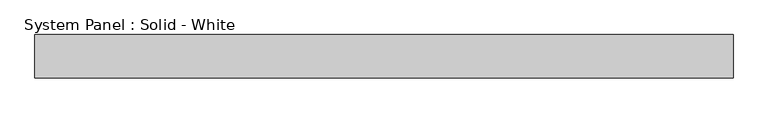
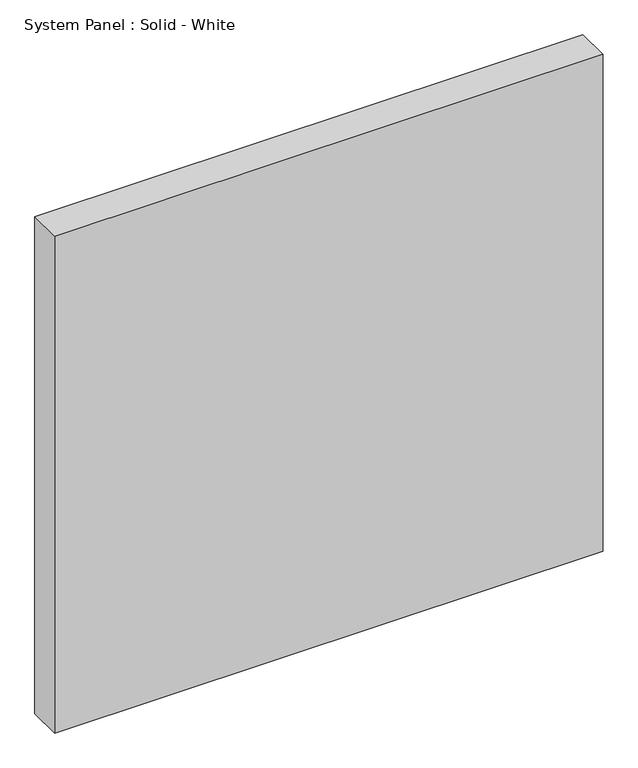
"""IFC4 building model written with IfcOpenShell, lengths in millimetres: plate geometry, System Panel : Solid - White."""

from ifc_helpers import new_model, si_unit, origin, origin_with_axes, place, context, project, spatial, polyline, outline, extrude, source, transform, mapped, element, save


def system_panel_solid_white_2246336a(model_context):
    return source(origin(), model_context, "Body", "SweptSolid", [
        extrude(outline(polyline([(511.4925, -44.45), (-511.4925, -44.45), (-511.4925, 19.05), (511.4925, 19.05), (511.4925, -44.45)])), origin_with_axes(), (0.0, 0.0, 1.0), 979.9108166),
    ])


if __name__ == "__main__":
    model = new_model("IFC4")
    model_context = context("Model", 3, world=origin())
    ifc_project = project(units=[si_unit("LENGTHUNIT", "METRE", prefix="MILLI")], contexts=[model_context])
    site = spatial("IfcSite", under=ifc_project)
    building = spatial("IfcBuilding", under=site)
    placement = place(None, origin())
    system_panel_solid_white_shape = system_panel_solid_white_2246336a(model_context)
    element("IfcPlate", 1, ObjectType="System Panel : Solid - White", at=placement, inside=building, context=model_context, shape_type="MappedRepresentation", body=[
        mapped(system_panel_solid_white_shape, transform((0.0, 0.0, 0.0), x_axis=(1.0, 0.0, 0.0), y_axis=(0.0, 1.0, 0.0), z_axis=(0.0, 0.0, 1.0))),
    ])
    save(model, "model.ifc")
